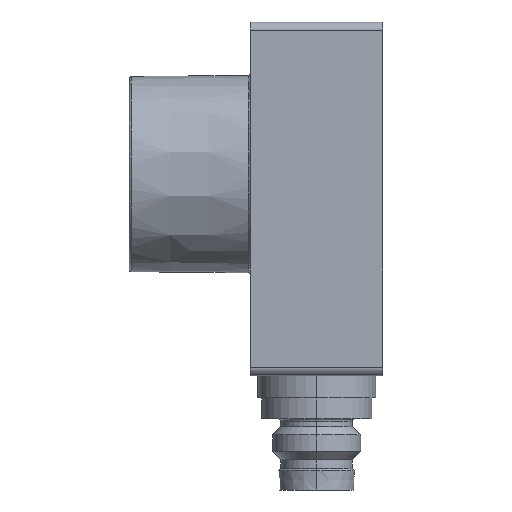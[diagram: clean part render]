
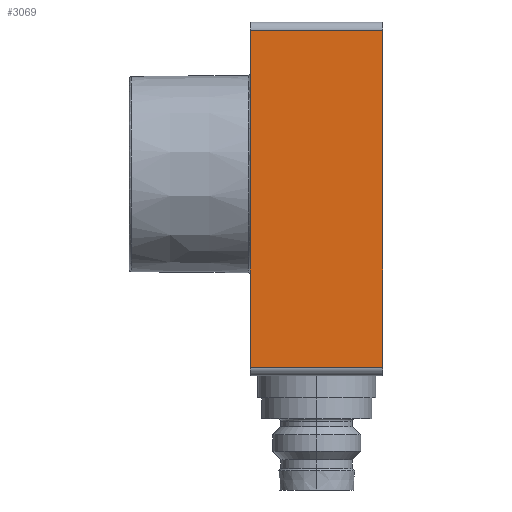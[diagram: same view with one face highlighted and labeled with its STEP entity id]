
A CAD part, left-side view. The second image highlights one B-rep face of the part: STEP entity #3069.
In plain terms, the highlighted planar face has unit normal (-1, 0, 0).
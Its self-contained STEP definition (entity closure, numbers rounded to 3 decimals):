
#280 = DIRECTION ( 'NONE',  ( 0., 1., 0. ) ) ;
#301 = ORIENTED_EDGE ( 'NONE', *, *, #7142, .F. ) ;
#458 = CARTESIAN_POINT ( 'NONE',  ( -10.7, -6., 0.8 ) ) ;
#553 = CARTESIAN_POINT ( 'NONE',  ( -10.7, 6., 31.3 ) ) ;
#876 = CARTESIAN_POINT ( 'NONE',  ( -10.7, -6., 31.3 ) ) ;
#913 = EDGE_CURVE ( 'NONE', #4310, #7276, #5672, .T. ) ;
#930 = LINE ( 'NONE', #6148, #4740 ) ;
#1015 = VERTEX_POINT ( 'NONE', #1885 ) ;
#1022 = VECTOR ( 'NONE', #2372, 1000. ) ;
#1487 = ORIENTED_EDGE ( 'NONE', *, *, #913, .T. ) ;
#1518 = CARTESIAN_POINT ( 'NONE',  ( -10.7, 6., 31.3 ) ) ;
#1595 = VERTEX_POINT ( 'NONE', #553 ) ;
#1885 = CARTESIAN_POINT ( 'NONE',  ( -10.7, 6., 0.8 ) ) ;
#2372 = DIRECTION ( 'NONE',  ( 0., 0., 1. ) ) ;
#2584 = CARTESIAN_POINT ( 'NONE',  ( -10.7, 0., 31.3 ) ) ;
#2653 = EDGE_CURVE ( 'NONE', #7276, #1595, #4409, .T. ) ;
#2658 = AXIS2_PLACEMENT_3D ( 'NONE', #2584, #5998, #3205 ) ;
#2723 = LINE ( 'NONE', #1518, #6628 ) ;
#2810 = CARTESIAN_POINT ( 'NONE',  ( -10.7, -6., 0.8 ) ) ;
#2847 = CARTESIAN_POINT ( 'NONE',  ( -10.7, -6., 31.3 ) ) ;
#3069 = ADVANCED_FACE ( 'NONE', ( #5858 ), #7054, .T. ) ;
#3205 = DIRECTION ( 'NONE',  ( 0., 0., 1. ) ) ;
#3412 = EDGE_CURVE ( 'NONE', #1595, #1015, #2723, .T. ) ;
#4310 = VERTEX_POINT ( 'NONE', #458 ) ;
#4409 = LINE ( 'NONE', #876, #4796 ) ;
#4740 = VECTOR ( 'NONE', #6751, 1000. ) ;
#4796 = VECTOR ( 'NONE', #280, 1000. ) ;
#4854 = DIRECTION ( 'NONE',  ( 0., 0., -1. ) ) ;
#5101 = ORIENTED_EDGE ( 'NONE', *, *, #2653, .T. ) ;
#5335 = ORIENTED_EDGE ( 'NONE', *, *, #3412, .T. ) ;
#5672 = LINE ( 'NONE', #2810, #1022 ) ;
#5858 = FACE_OUTER_BOUND ( 'NONE', #6020, .T. ) ;
#5998 = DIRECTION ( 'NONE',  ( -1., 0., 0. ) ) ;
#6020 = EDGE_LOOP ( 'NONE', ( #5335, #301, #1487, #5101 ) ) ;
#6148 = CARTESIAN_POINT ( 'NONE',  ( -10.7, -6., 0.8 ) ) ;
#6628 = VECTOR ( 'NONE', #4854, 1000. ) ;
#6751 = DIRECTION ( 'NONE',  ( 0., 1., 0. ) ) ;
#7054 = PLANE ( 'NONE',  #2658 ) ;
#7142 = EDGE_CURVE ( 'NONE', #4310, #1015, #930, .T. ) ;
#7276 = VERTEX_POINT ( 'NONE', #2847 ) ;
